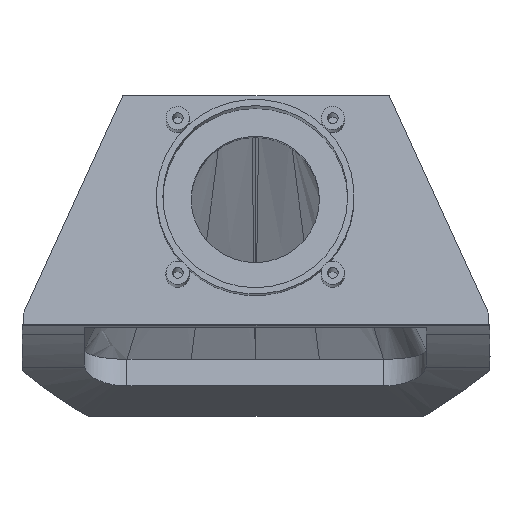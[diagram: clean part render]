
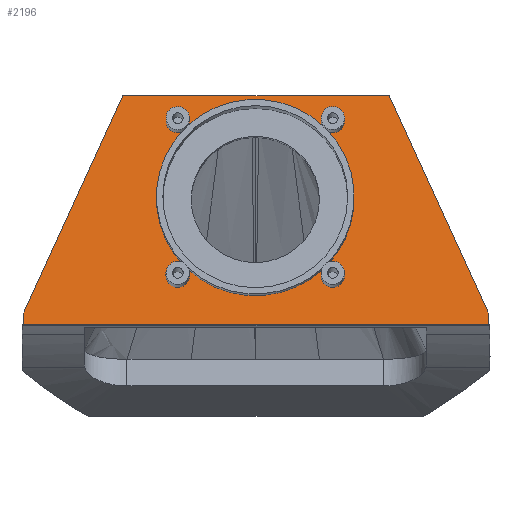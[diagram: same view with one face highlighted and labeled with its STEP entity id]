
A CAD part, top view. The second image highlights one B-rep face of the part: STEP entity #2196.
In plain terms, the highlighted planar face has unit normal (0, 0.174, 0.985).
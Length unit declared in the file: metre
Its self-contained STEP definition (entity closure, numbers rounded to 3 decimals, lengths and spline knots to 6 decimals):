
#268=LINE('',#5587,#397);
#269=LINE('',#5589,#398);
#273=LINE('',#5597,#402);
#277=LINE('',#5607,#406);
#279=LINE('',#5611,#408);
#280=LINE('',#5613,#409);
#397=VECTOR('',#2881,1.);
#398=VECTOR('',#2884,1.);
#402=VECTOR('',#2890,1.);
#406=VECTOR('',#2902,1.);
#408=VECTOR('',#2906,1.);
#409=VECTOR('',#2907,1.);
#1067=ORIENTED_EDGE('',*,*,#1114,.F.);
#1068=ORIENTED_EDGE('',*,*,#1113,.F.);
#1069=ORIENTED_EDGE('',*,*,#1110,.F.);
#1070=ORIENTED_EDGE('',*,*,#1104,.F.);
#1071=ORIENTED_EDGE('',*,*,#1099,.F.);
#1072=ORIENTED_EDGE('',*,*,#1098,.F.);
#1073=ORIENTED_EDGE('',*,*,#1124,.F.);
#1074=ORIENTED_EDGE('',*,*,#1119,.F.);
#1075=ORIENTED_EDGE('',*,*,#1404,.F.);
#1076=ORIENTED_EDGE('',*,*,#1397,.F.);
#1077=ORIENTED_EDGE('',*,*,#1393,.T.);
#1078=ORIENTED_EDGE('',*,*,#1392,.T.);
#1079=ORIENTED_EDGE('',*,*,#1402,.F.);
#1080=ORIENTED_EDGE('',*,*,#1405,.F.);
#1098=EDGE_CURVE('',#1416,#1413,#1632,.T.);
#1099=EDGE_CURVE('',#1413,#1417,#1633,.T.);
#1104=EDGE_CURVE('',#1417,#1419,#1636,.T.);
#1110=EDGE_CURVE('',#1419,#1424,#1641,.T.);
#1113=EDGE_CURVE('',#1424,#1426,#1643,.T.);
#1114=EDGE_CURVE('',#1426,#1428,#1644,.T.);
#1119=EDGE_CURVE('',#1428,#1430,#1647,.T.);
#1124=EDGE_CURVE('',#1430,#1416,#1652,.T.);
#1392=EDGE_CURVE('',#1616,#1617,#268,.T.);
#1393=EDGE_CURVE('',#1618,#1616,#269,.T.);
#1397=EDGE_CURVE('',#1618,#1619,#273,.T.);
#1402=EDGE_CURVE('',#1623,#1617,#277,.T.);
#1404=EDGE_CURVE('',#1619,#1624,#279,.T.);
#1405=EDGE_CURVE('',#1624,#1623,#280,.T.);
#1413=VERTEX_POINT('',#2934);
#1416=VERTEX_POINT('',#2939);
#1417=VERTEX_POINT('',#2943);
#1419=VERTEX_POINT('',#2949);
#1424=VERTEX_POINT('',#2964);
#1426=VERTEX_POINT('',#2970);
#1428=VERTEX_POINT('',#2976);
#1430=VERTEX_POINT('',#2982);
#1616=VERTEX_POINT('',#5584);
#1617=VERTEX_POINT('',#5586);
#1618=VERTEX_POINT('',#5590);
#1619=VERTEX_POINT('',#5594);
#1623=VERTEX_POINT('',#5608);
#1624=VERTEX_POINT('',#5612);
#1632=CIRCLE('',#2226,0.02312);
#1633=CIRCLE('',#2228,0.00275);
#1636=CIRCLE('',#2232,0.02312);
#1641=CIRCLE('',#2241,0.00275);
#1643=CIRCLE('',#2244,0.02312);
#1644=CIRCLE('',#2246,0.00275);
#1647=CIRCLE('',#2250,0.02312);
#1652=CIRCLE('',#2259,0.00275);
#1852=EDGE_LOOP('',(#1067,#1068,#1069,#1070,#1071,#1072,#1073,#1074));
#1853=EDGE_LOOP('',(#1075,#1076,#1077,#1078,#1079,#1080));
#2008=FACE_BOUND('',#1852,.T.);
#2009=FACE_BOUND('',#1853,.T.);
#2068=PLANE('',#2399);
#2196=ADVANCED_FACE('',(#2008,#2009),#2068,.F.);
#2226=AXIS2_PLACEMENT_3D('',#2940,#2434,#2435);
#2228=AXIS2_PLACEMENT_3D('',#2942,#2438,#2439);
#2232=AXIS2_PLACEMENT_3D('',#2952,#2448,#2449);
#2241=AXIS2_PLACEMENT_3D('',#2967,#2467,#2468);
#2244=AXIS2_PLACEMENT_3D('',#2973,#2474,#2475);
#2246=AXIS2_PLACEMENT_3D('',#2975,#2478,#2479);
#2250=AXIS2_PLACEMENT_3D('',#2985,#2488,#2489);
#2259=AXIS2_PLACEMENT_3D('',#2997,#2506,#2507);
#2399=AXIS2_PLACEMENT_3D('',#5610,#2904,#2905);
#2434=DIRECTION('',(0.,0.174,0.985));
#2435=DIRECTION('',(0.685,0.718,-0.127));
#2438=DIRECTION('',(0.,0.174,0.985));
#2439=DIRECTION('',(-1.,0.,0.));
#2448=DIRECTION('',(0.,0.174,0.985));
#2449=DIRECTION('',(-1.,0.,0.));
#2467=DIRECTION('',(0.,0.174,0.985));
#2468=DIRECTION('',(1.,0.,0.));
#2474=DIRECTION('',(0.,0.174,0.985));
#2475=DIRECTION('',(-0.69,-0.713,0.126));
#2478=DIRECTION('',(0.,0.174,0.985));
#2479=DIRECTION('',(1.,0.,0.));
#2488=DIRECTION('',(0.,0.174,0.985));
#2489=DIRECTION('',(1.,0.,0.));
#2506=DIRECTION('',(0.,0.174,0.985));
#2507=DIRECTION('',(-1.,0.,0.));
#2881=DIRECTION('',(1.,0.,0.));
#2884=DIRECTION('',(-0.087,-0.981,0.173));
#2890=DIRECTION('',(0.41,0.898,-0.158));
#2902=DIRECTION('',(0.087,-0.981,0.173));
#2904=DIRECTION('',(0.,-0.174,-0.985));
#2905=DIRECTION('',(1.,0.,0.));
#2906=DIRECTION('',(1.,0.,0.));
#2907=DIRECTION('',(0.41,-0.898,0.158));
#2934=CARTESIAN_POINT('',(-0.080064,0.083536,1.333486));
#2939=CARTESIAN_POINT('',(-0.048406,0.083536,1.333486));
#2940=CARTESIAN_POINT('',(-0.064235,0.066941,1.336412));
#2942=CARTESIAN_POINT('',(-0.082365,0.08502,1.333224));
#2943=CARTESIAN_POINT('',(-0.080887,0.082736,1.333627));
#2949=CARTESIAN_POINT('',(-0.080728,0.050985,1.339226));
#2952=CARTESIAN_POINT('',(-0.064235,0.066941,1.336412));
#2964=CARTESIAN_POINT('',(-0.08018,0.050454,1.339319));
#2967=CARTESIAN_POINT('',(-0.082365,0.048809,1.339609));
#2970=CARTESIAN_POINT('',(-0.04829,0.050454,1.339319));
#2973=CARTESIAN_POINT('',(-0.064235,0.066941,1.336412));
#2975=CARTESIAN_POINT('',(-0.046106,0.048809,1.339609));
#2976=CARTESIAN_POINT('',(-0.047742,0.050985,1.339226));
#2982=CARTESIAN_POINT('',(-0.047584,0.082736,1.333627));
#2985=CARTESIAN_POINT('',(-0.064235,0.066941,1.336412));
#2997=CARTESIAN_POINT('',(-0.046106,0.08502,1.333224));
#5584=CARTESIAN_POINT('',(-0.118549,0.037504,1.341603));
#5586=CARTESIAN_POINT('',(-0.009585,0.037504,1.341603));
#5587=CARTESIAN_POINT('',(-0.118549,0.037504,1.341603));
#5589=CARTESIAN_POINT('',(-0.118297,0.040361,1.341099));
#5590=CARTESIAN_POINT('',(-0.118297,0.040361,1.341099));
#5594=CARTESIAN_POINT('',(-0.095185,0.090969,1.332176));
#5597=CARTESIAN_POINT('',(-0.118297,0.040361,1.341099));
#5607=CARTESIAN_POINT('',(-0.009837,0.040361,1.341099));
#5608=CARTESIAN_POINT('',(-0.009837,0.040361,1.341099));
#5610=CARTESIAN_POINT('',(-0.025517,-0.001309,1.348447));
#5611=CARTESIAN_POINT('',(-0.095185,0.090969,1.332176));
#5612=CARTESIAN_POINT('',(-0.032949,0.090969,1.332176));
#5613=CARTESIAN_POINT('',(-0.032949,0.090969,1.332176));
